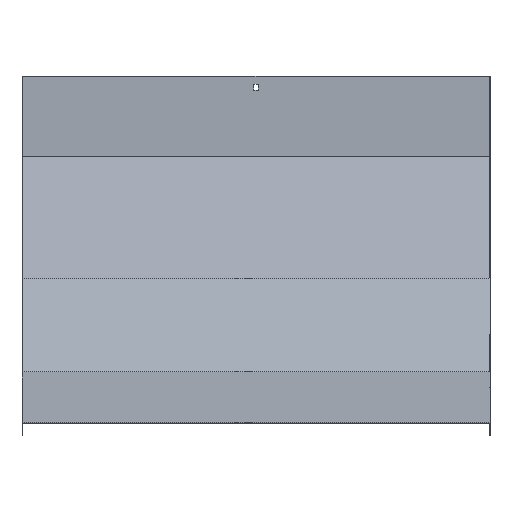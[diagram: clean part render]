
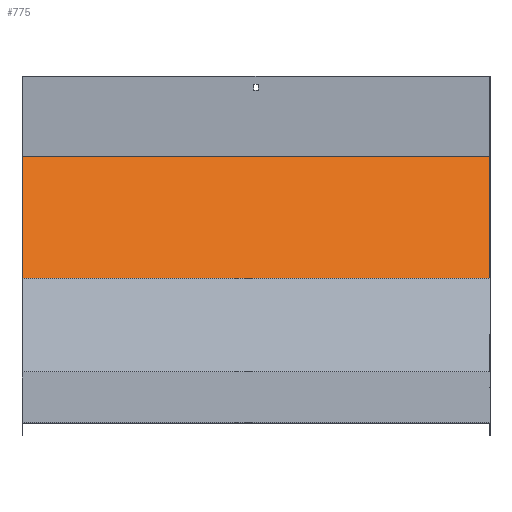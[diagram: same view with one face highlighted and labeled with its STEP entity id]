
A CAD part, top view. The second image highlights one B-rep face of the part: STEP entity #775.
In plain terms, the highlighted planar face has unit normal (0, 0.383, 0.924).
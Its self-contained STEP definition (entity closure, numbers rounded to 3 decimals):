
#15 = LINE ( 'NONE', #28, #930 ) ;
#19 = VECTOR ( 'NONE', #776, 1000. ) ;
#28 = CARTESIAN_POINT ( 'NONE',  ( 351.5, 400.72, -520.72 ) ) ;
#45 = VERTEX_POINT ( 'NONE', #827 ) ;
#162 = LINE ( 'NONE', #349, #340 ) ;
#169 = CARTESIAN_POINT ( 'NONE',  ( -351.5, 400.72, -520.72 ) ) ;
#171 = FACE_OUTER_BOUND ( 'NONE', #994, .T. ) ;
#179 = PLANE ( 'NONE',  #348 ) ;
#209 = CARTESIAN_POINT ( 'NONE',  ( -351.5, 216.868, -444.566 ) ) ;
#240 = EDGE_CURVE ( 'NONE', #45, #589, #15, .T. ) ;
#263 = VERTEX_POINT ( 'NONE', #367 ) ;
#317 = ORIENTED_EDGE ( 'NONE', *, *, #939, .F. ) ;
#340 = VECTOR ( 'NONE', #958, 1000. ) ;
#348 = AXIS2_PLACEMENT_3D ( 'NONE', #606, #699, #1034 ) ;
#349 = CARTESIAN_POINT ( 'NONE',  ( -351.5, 216.868, -444.566 ) ) ;
#351 = DIRECTION ( 'NONE',  ( -1., 0., 0. ) ) ;
#367 = CARTESIAN_POINT ( 'NONE',  ( 351.5, 216.868, -444.566 ) ) ;
#439 = VECTOR ( 'NONE', #546, 1000. ) ;
#505 = ORIENTED_EDGE ( 'NONE', *, *, #240, .T. ) ;
#519 = EDGE_CURVE ( 'NONE', #263, #45, #1093, .T. ) ;
#546 = DIRECTION ( 'NONE',  ( 0., 0.924, -0.383 ) ) ;
#589 = VERTEX_POINT ( 'NONE', #169 ) ;
#606 = CARTESIAN_POINT ( 'NONE',  ( 351.5, 216.868, -444.566 ) ) ;
#611 = LINE ( 'NONE', #1048, #19 ) ;
#699 = DIRECTION ( 'NONE',  ( 0., 0.383, 0.924 ) ) ;
#749 = CARTESIAN_POINT ( 'NONE',  ( 351.5, 216.868, -444.566 ) ) ;
#775 = ADVANCED_FACE ( 'NONE', ( #171 ), #179, .T. ) ;
#776 = DIRECTION ( 'NONE',  ( -1., 0., 0. ) ) ;
#827 = CARTESIAN_POINT ( 'NONE',  ( 351.5, 400.72, -520.72 ) ) ;
#852 = ORIENTED_EDGE ( 'NONE', *, *, #971, .F. ) ;
#871 = ORIENTED_EDGE ( 'NONE', *, *, #519, .T. ) ;
#924 = VERTEX_POINT ( 'NONE', #209 ) ;
#930 = VECTOR ( 'NONE', #351, 1000. ) ;
#939 = EDGE_CURVE ( 'NONE', #263, #924, #611, .T. ) ;
#958 = DIRECTION ( 'NONE',  ( 0., 0.924, -0.383 ) ) ;
#971 = EDGE_CURVE ( 'NONE', #924, #589, #162, .T. ) ;
#994 = EDGE_LOOP ( 'NONE', ( #852, #317, #871, #505 ) ) ;
#1034 = DIRECTION ( 'NONE',  ( 0., -0.924, 0.383 ) ) ;
#1048 = CARTESIAN_POINT ( 'NONE',  ( 351.5, 216.868, -444.566 ) ) ;
#1093 = LINE ( 'NONE', #749, #439 ) ;
